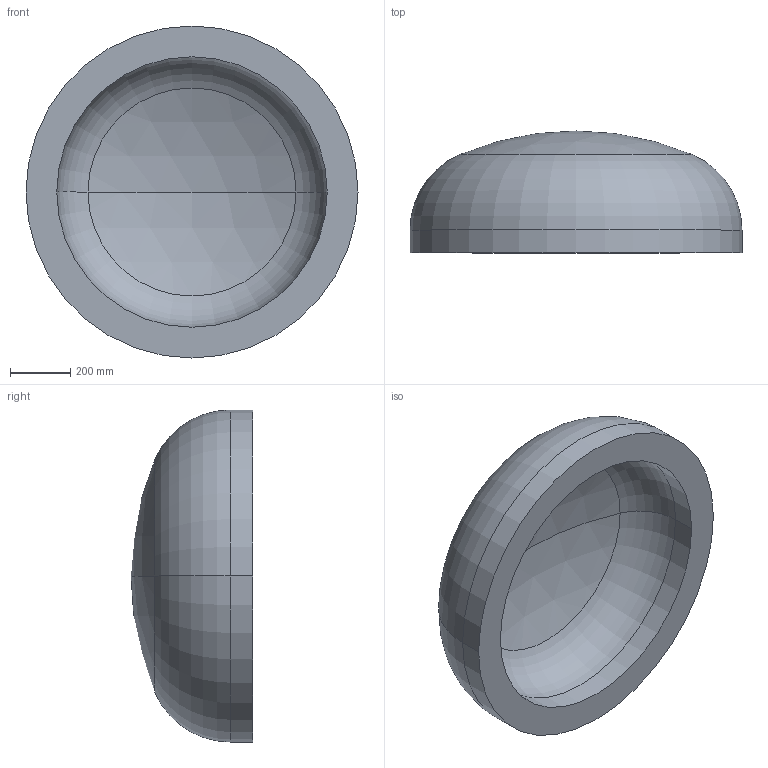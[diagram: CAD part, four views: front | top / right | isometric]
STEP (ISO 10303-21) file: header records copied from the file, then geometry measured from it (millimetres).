
FILE_DESCRIPTION (( 'STEP AP203' ), '1' );
FILE_NAME ('DIN 28013 Korbbogenform_-_Boden DIN 28013 - 1100 x 75 - I - s=102.step', '2016-07-01T09:16:25', ( '' ), ( '' ), 'SwSTEP 2.0', 'SolidWorks 2013', '' );
FILE_SCHEMA (( 'CONFIG_CONTROL_DESIGN' ));
Length unit declared in the file: millimetre
Products named in the file (1): DIN 28013 Korbbogenform_-_Boden DIN 28013 - 1100 x 75 - I - s=102
Bounding box: 1100 x 403.69 x 1100 mm (x, y, z)
Volume: 143703832.7 mm3; surface area: 3159313.4 mm2
Topology: 1 solids, 1 shells, 13 faces, 24 edges, 14 vertices
Faces by surface type: torus 4, cylinder 4, sphere 4, plane 1
Entity records: 407 total; most frequent: DIRECTION 72, CARTESIAN_POINT 52, ORIENTED_EDGE 48, AXIS2_PLACEMENT_3D 34, EDGE_CURVE 24, CIRCLE 20, VERTEX_POINT 14, EDGE_LOOP 14
